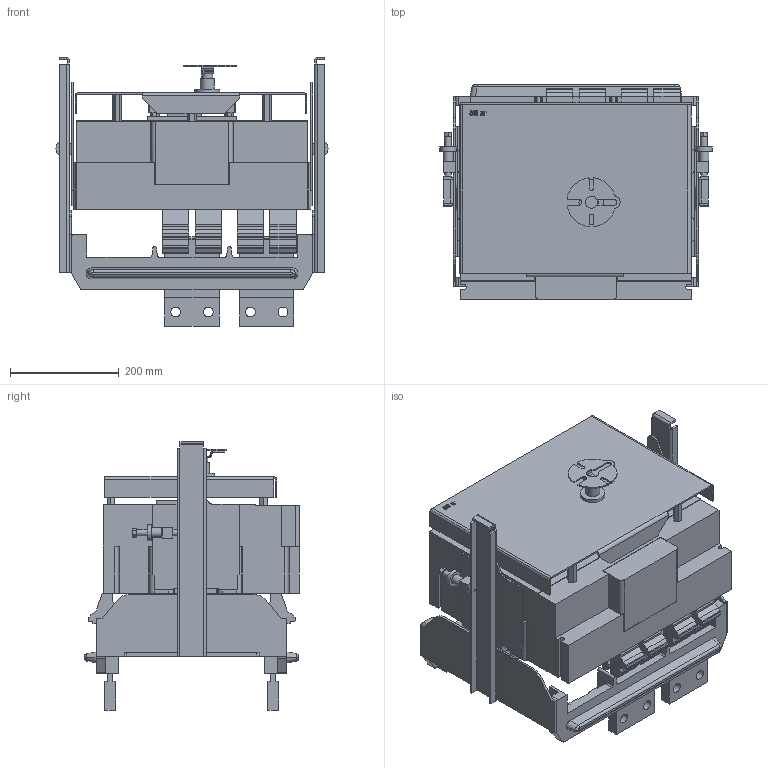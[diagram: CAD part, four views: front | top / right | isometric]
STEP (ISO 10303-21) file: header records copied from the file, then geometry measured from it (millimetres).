
FILE_DESCRIPTION (( 'STEP AP214' ), '1' );
FILE_NAME ('ÂÀ 53(55)-43 DC âûäâèæíîå èñïîëíåíèå ñ ìåõàíè÷åñêèì ïðèâîäîì 1600À.STEP', '2023-02-09T06:53:07', ( '' ), ( '' ), 'SwSTEP 2.0', 'SolidWorks 2018', '' );
FILE_SCHEMA (( 'AUTOMOTIVE_DESIGN' ));
Length unit declared in the file: millimetre
Products named in the file (1): ÂÀ 53(55)-43 DC âûäâèæíîå èñïîëíåíèå ñ ìåõàíè÷åñêèì ïðèâîäîì 1600À
Bounding box: 501 x 395.2 x 494.3 mm (x, y, z)
Volume: 29737257.9 mm3; surface area: 2352641.5 mm2
Topology: 1 solids, 3 shells, 1224 faces, 3650 edges, 2431 vertices
Faces by surface type: plane 895, cylinder 317, bspline 10, cone 2
Full cylindrical faces by diameter (mm): 12 x6, 12.2 x2, 13.2 x4, 18 x14, 20 x1, 25.7 x1, 30 x2, 45.6 x1
Entity records: 41520 total; most frequent: CARTESIAN_POINT 8133, ORIENTED_EDGE 7200, DIRECTION 6619, EDGE_CURVE 3600, LINE 2869, VECTOR 2869, VERTEX_POINT 2414, AXIS2_PLACEMENT_3D 1875
